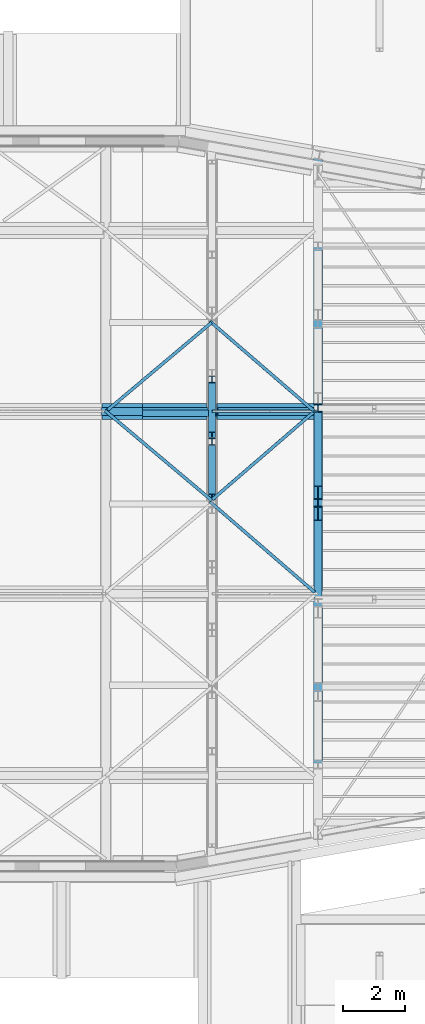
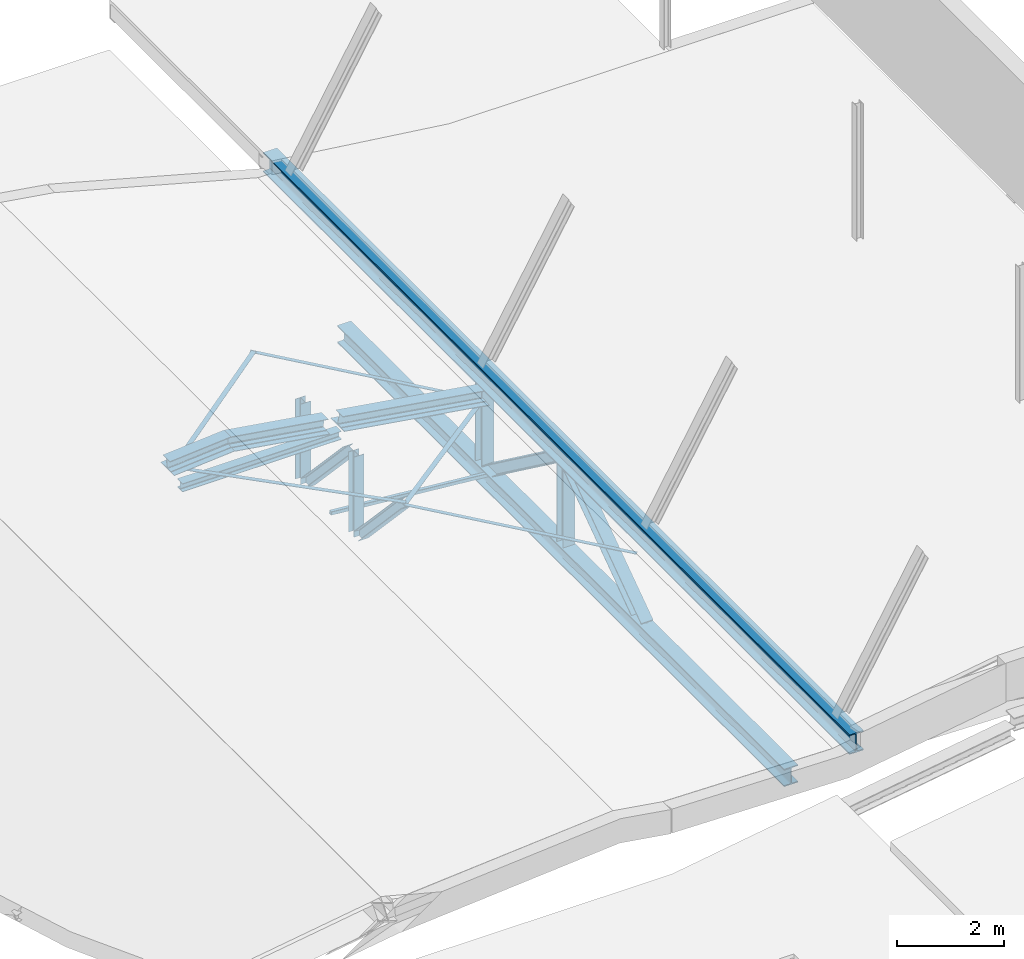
# One storey, part 28 of 50: 20 beams.
"""IFC2X3 building model written with IfcOpenShell, lengths in millimetres."""

from ifc_helpers import new_model, entity, si_unit, converted_unit, derived_unit, direction, frame, frame_2d, origin, place, context, subcontext, project, spatial, polyline, circle_curve, parameter, trimmed, segment, composite_curve, rectangle, i_section, outline, extrude, clip, halfspace, bounded_halfspace, source, transform, mapped, material, material_list, type_object, type_shapes, element, save


model = new_model("IFC2X3")

# Units and contexts
model_context = context("Model", 3, precision=0.01, world=origin(), true_north=direction((6.12303176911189e-17, 1.0)))
body_context = subcontext(model_context, "Body", "Model", "MODEL_VIEW")
ifc_project = project(units=[si_unit("LENGTHUNIT", "METRE", prefix="MILLI"), si_unit("AREAUNIT", "SQUARE_METRE", prefix="MILLI"), si_unit("VOLUMEUNIT", "CUBIC_METRE"), converted_unit("PLANEANGLEUNIT", "DEGREE", entity("IfcRatioMeasure", 0.0174532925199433), si_unit("PLANEANGLEUNIT", "RADIAN"), dimensions=[0, 0, 0, 0, 0, 0, 0]), si_unit("MASSUNIT", "GRAM", prefix="KILO"), derived_unit("MASSDENSITYUNIT", [(si_unit("MASSUNIT", "GRAM", prefix="KILO"), 1), (si_unit("LENGTHUNIT", "METRE"), -3)]), derived_unit("MOMENTOFINERTIAUNIT", [(si_unit("LENGTHUNIT", "METRE"), 4)]), si_unit("TIMEUNIT", "SECOND"), si_unit("FREQUENCYUNIT", "HERTZ"), si_unit("THERMODYNAMICTEMPERATUREUNIT", "DEGREE_CELSIUS"), derived_unit("THERMALTRANSMITTANCEUNIT", [(si_unit("MASSUNIT", "GRAM", prefix="KILO"), 1), (si_unit("THERMODYNAMICTEMPERATUREUNIT", "KELVIN"), -1), (si_unit("TIMEUNIT", "SECOND"), -3)]), derived_unit("VOLUMETRICFLOWRATEUNIT", [(si_unit("LENGTHUNIT", "METRE"), 3), (si_unit("TIMEUNIT", "SECOND"), -1)]), si_unit("ELECTRICCURRENTUNIT", "AMPERE"), si_unit("ELECTRICVOLTAGEUNIT", "VOLT"), si_unit("POWERUNIT", "WATT"), si_unit("FORCEUNIT", "NEWTON", prefix="KILO"), si_unit("ILLUMINANCEUNIT", "LUX"), si_unit("LUMINOUSFLUXUNIT", "LUMEN"), si_unit("LUMINOUSINTENSITYUNIT", "CANDELA"), derived_unit("USERDEFINED", [(si_unit("MASSUNIT", "GRAM", prefix="KILO"), -1), (si_unit("LENGTHUNIT", "METRE"), -2), (si_unit("TIMEUNIT", "SECOND"), 3), (si_unit("LUMINOUSFLUXUNIT", "LUMEN"), 1)]), derived_unit("LINEARVELOCITYUNIT", [(si_unit("LENGTHUNIT", "METRE"), 1), (si_unit("TIMEUNIT", "SECOND"), -1)]), si_unit("PRESSUREUNIT", "PASCAL"), derived_unit("USERDEFINED", [(si_unit("LENGTHUNIT", "METRE"), -2), (si_unit("MASSUNIT", "GRAM", prefix="KILO"), 1), (si_unit("TIMEUNIT", "SECOND"), -2)]), derived_unit("LINEARFORCEUNIT", [(si_unit("MASSUNIT", "GRAM", prefix="KILO"), 1), (si_unit("LENGTHUNIT", "METRE"), 1), (si_unit("TIMEUNIT", "SECOND"), -2), (si_unit("LENGTHUNIT", "METRE"), -1)]), derived_unit("PLANARFORCEUNIT", [(si_unit("MASSUNIT", "GRAM", prefix="KILO"), 1), (si_unit("LENGTHUNIT", "METRE"), 1), (si_unit("TIMEUNIT", "SECOND"), -2), (si_unit("LENGTHUNIT", "METRE"), -2)])], contexts=[model_context])

# Site, building, storey
site_placement = place(None, origin())
site = spatial("IfcSite", under=ifc_project, at=site_placement, Name="Theater aan de Parade", CompositionType="ELEMENT")
building_placement = place(site_placement, origin())
building = spatial("IfcBuilding", under=site, at=building_placement, Name="Theater aan de Parade", CompositionType="ELEMENT")
storey_placement = place(building_placement, frame((0.0, 0.0, 15820.0)))
storey = spatial("IfcBuildingStorey", under=building, at=storey_placement, Name="04 vierde verdieping", CompositionType="ELEMENT", Elevation=15820.0)

# Beams
ifc_material_1 = material(Name="00_PBT_MAT_staal_S355")
beam_type_1 = type_object("IfcBeamType", Name="28_PBT_SF_staal_H-profiel:S355_HE220A", PredefinedType="NOTDEFINED")
beam_1_placement = place(storey_placement, frame((52739.1873742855, 36420.0, -650.0), z_axis=(1.0, 0.0, 0.0), x_axis=(0.0, 0.0, 1.0)))
element("IfcBeam", 1, at=beam_1_placement, inside=storey, type_object=beam_type_1, material=ifc_material_1, Name="28_PBT_SF_staal_H-profiel:S355_HE220A", ObjectType="28_PBT_SF_staal_H-profiel:S355_HE220A", context=body_context, shape_type="SweptSolid", body=[
    extrude(i_section(OverallWidth=220.000000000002, OverallDepth=210.000000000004, WebThickness=6.99999999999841, FlangeThickness=10.9999999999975, FilletRadius=17.9999999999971, at=frame_2d((8.66862137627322e-12, 4.33431068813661e-12), x_axis=(1.0, 0.0))), frame((122.700000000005, 0.0, 0.0), z_axis=(1.0, 0.0, 0.0), x_axis=(0.0, 0.0, -1.0)), (0.0, 0.0, 1.0), 1834.6),
])
beam_2_placement = place(storey_placement, frame((52739.1873742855, 34420.0, -650.0), z_axis=(1.0, 0.0, 0.0), x_axis=(0.0, 0.0, 1.0)))
element("IfcBeam", 2, at=beam_2_placement, inside=storey, type_object=beam_type_1, material=ifc_material_1, Name="28_PBT_SF_staal_H-profiel:S355_HE220A", ObjectType="28_PBT_SF_staal_H-profiel:S355_HE220A", context=body_context, shape_type="SweptSolid", body=[
    extrude(i_section(OverallWidth=220.000000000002, OverallDepth=210.000000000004, WebThickness=6.99999999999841, FlangeThickness=10.9999999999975, FilletRadius=17.9999999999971, at=frame_2d((8.66862137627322e-12, 0.0), x_axis=(1.0, 0.0))), frame((122.700000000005, 0.0, 0.0), z_axis=(1.0, 0.0, 0.0), x_axis=(0.0, 0.0, -1.0)), (0.0, 0.0, 1.0), 1834.6),
])
beam_3_placement = place(storey_placement, frame((52739.1873742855, 32420.0, 1480.0), z_axis=(1.0, 0.0, 0.0), x_axis=(0.0, 0.684510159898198, -0.729003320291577)))
element("IfcBeam", 3, at=beam_3_placement, inside=storey, type_object=beam_type_1, material=ifc_material_1, Name="28_PBT_SF_staal_H-profiel:S355_HE220A", ObjectType="28_PBT_SF_staal_H-profiel:S355_HE220A", context=body_context, shape_type="Clipping", body=[
    clip(clip(clip(clip(extrude(i_section(OverallWidth=220.000000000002, OverallDepth=209.999999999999, WebThickness=6.99999999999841, FlangeThickness=11.0000000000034, FilletRadius=17.9999999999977, at=frame_2d((8.66862137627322e-12, -2.31636931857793e-12), x_axis=(1.0, 0.0))), frame((216.784367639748, 0.0, 0.0), z_axis=(1.0, 0.0, 0.0), x_axis=(0.0, 0.0, -1.0)), (0.0, 0.0, 1.0), 2524.67882275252), halfspace(frame((-4278.80530331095, -7478.72504004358, 130.0), z_axis=(0.729003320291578, -0.684510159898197, 0.0), x_axis=(0.684510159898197, 0.729003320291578, 0.0)), False)), halfspace(frame((1563.47220121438, -1296.58203212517, -130.0), z_axis=(-0.684510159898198, -0.729003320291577, 0.0), x_axis=(-0.729003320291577, 0.684510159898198, 0.0)), False)), halfspace(frame((2761.36498103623, -20.8262216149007, 130.0), z_axis=(0.684510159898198, 0.729003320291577, 0.0), x_axis=(-0.729003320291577, 0.684510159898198, 0.0)), False)), halfspace(frame((-7650.66748484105, -8410.92263663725, -170.0), z_axis=(-0.729003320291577, 0.684510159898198, 0.0), x_axis=(0.684510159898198, 0.729003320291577, 0.0)), False)),
])
beam_4_placement = place(storey_placement, frame((52739.1873742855, 34420.0, 1480.0), z_axis=(1.0, 0.0, 0.0), x_axis=(0.0, 0.684510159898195, -0.72900332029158)))
element("IfcBeam", 4, at=beam_4_placement, inside=storey, type_object=beam_type_1, material=ifc_material_1, Name="28_PBT_SF_staal_H-profiel:S355_HE220A", ObjectType="28_PBT_SF_staal_H-profiel:S355_HE220A", context=body_context, shape_type="Clipping", body=[
    clip(clip(clip(clip(extrude(i_section(OverallWidth=220.000000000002, OverallDepth=210.000000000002, WebThickness=6.9999999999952, FlangeThickness=10.9999999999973, FilletRadius=17.9999999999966, at=frame_2d((8.66862137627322e-12, -1.07647224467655e-11), x_axis=(1.0, 0.0))), frame((216.784367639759, 0.0, 0.0), z_axis=(1.0, 0.0, 0.0), x_axis=(0.0, 0.0, -1.0)), (0.0, 0.0, 1.0), 2524.67882275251), halfspace(frame((-5647.82562310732, -8936.73168062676, 130.0), z_axis=(0.72900332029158, -0.684510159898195, 0.0), x_axis=(0.684510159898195, 0.72900332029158, 0.0)), False)), halfspace(frame((2761.36498103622, -20.8262216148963, 130.0), z_axis=(0.684510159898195, 0.72900332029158, 0.0), x_axis=(-0.72900332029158, 0.684510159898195, 0.0)), False)), bounded_halfspace(frame((1563.47220121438, -1296.58203212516, -130.0), z_axis=(-0.684510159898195, -0.72900332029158, 0.0), x_axis=(-0.72900332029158, 0.684510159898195, 0.0)), False, frame((216.784367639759, 0.0, 0.0), z_axis=(1.0, 0.0, 0.0), x_axis=(0.0, 0.0, -1.0)), polyline([(3.50000000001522, -76.0), (21.5000000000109, -94.0), (110.0, -94.0), (110.0, -105.0), (-110.0, -105.0), (-110.0, -94.0), (-21.499999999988, -94.0), (-3.49999999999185, -76.0), (-3.49999999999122, -32.0864137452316), (3.50000000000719, -32.0864137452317), (3.50000000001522, -76.0)]))), bounded_halfspace(frame((-9019.68780463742, -9868.92927722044, -170.0), z_axis=(-0.72900332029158, 0.684510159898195, 0.0), x_axis=(0.684510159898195, 0.72900332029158, 0.0)), False, frame((216.784367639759, 0.0, 0.0), z_axis=(1.0, 0.0, 0.0), x_axis=(0.0, 0.0, -1.0)), polyline([(21.5000000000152, 94.0), (3.50000000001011, 76.0), (3.50000000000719, -32.0864137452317), (-3.49999999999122, -32.0864137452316), (-3.4999999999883, 76.0), (-21.4999999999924, 94.0), (-110.0, 94.0), (-110.0, 105.0), (110.0, 105.0), (110.0, 94.0), (21.5000000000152, 94.0)]))),
])
beam_type_2 = type_object("IfcBeamType", Name="28_PBT_SF_staal_H-profiel:S355_HE200A", PredefinedType="NOTDEFINED")
beam_5_placement = place(storey_placement, frame((52889.1873742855, 35330.0, 0.0), z_axis=(0.0, 0.0, 1.0), x_axis=(-1.0, 0.0, 0.0)))
element("IfcBeam", 5, at=beam_5_placement, inside=storey, type_object=beam_type_2, material=ifc_material_1, Name="28_PBT_SF_staal_H-profiel:S355_HE200A", ObjectType="28_PBT_SF_staal_H-profiel:S355_HE200A", context=body_context, shape_type="SweptSolid", body=[
    extrude(i_section(OverallWidth=199.999999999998, OverallDepth=190.0, WebThickness=6.50000000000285, FlangeThickness=9.99999999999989, FilletRadius=18.0000000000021, at=frame_2d((2.16715534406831e-12, 2.16715534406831e-12), x_axis=(0.0, 1.0))), frame((0.0, 0.0, 1165.0), z_axis=(1.0, 0.0, 0.0), x_axis=(0.0, 0.0, -1.0)), (0.0, 0.0, 1.0), 3444.1873742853),
])
ifc_material_2 = material(Name="00_PBT_MAT_Lucht")
ifc_material_list_1 = material_list([ifc_material_1, ifc_material_2])
beam_type_3 = type_object("IfcBeamType", Name="28_PBT_SF_staal_H-profiel_met_onderplaat (void):S355_HE260A + onderplaat d=12", PredefinedType="BEAM", material=ifc_material_list_1)
shared_shape_1 = source(origin(), body_context, "Body", "Clipping", [
    clip(extrude(i_section(OverallWidth=260.000000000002, OverallDepth=250.000000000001, WebThickness=7.50000000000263, FlangeThickness=12.4999999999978, FilletRadius=23.9999999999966, at=frame_2d((6.49436060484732e-12, 2.1458390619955e-12), x_axis=(1.0, 0.0))), frame((50495.0112438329, 35389.5120085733, 17640.3595866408), z_axis=(0.987688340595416, 0.0, -0.156434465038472), x_axis=(0.0, 1.0, 0.0)), (0.0, 0.0, 1.0), 2131.09008589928), halfspace(frame((50514.5655519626, 32410.0, 23110.0), z_axis=(-1.0, 0.0, 0.0), x_axis=(0.0, 0.0, 1.0)), False)),
    clip(extrude(rectangle(XDim=11.9999999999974, YDim=510.000000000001, at=frame_2d((-6.49436060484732e-12, 0.0), x_axis=(0.0, 1.0))), frame((50513.6269451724, 35389.5120085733, 17504.7782177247), z_axis=(0.987688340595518, 0.0, -0.156434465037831), x_axis=(0.0, 1.0, 0.0)), (0.0, 0.0, 1.0), 2091.49397581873), halfspace(frame((50514.5655519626, 32410.0, 23110.0), z_axis=(-1.0, 0.0, 0.0), x_axis=(0.0, 0.0, 1.0)), False)),
])
type_shapes(beam_type_3, [shared_shape_1])
beam_6_placement = place(storey_placement, frame((0.0, 0.0, -15820.0)))
element("IfcBeam", 6, at=beam_6_placement, inside=storey, type_object=beam_type_3, material=ifc_material_1, Name="28_PBT_SF_staal_H-profiel_met_onderplaat (void):S355_HE260A + onderplaat d=12", ObjectType="28_PBT_SF_staal_H-profiel_met_onderplaat (void):S355_HE260A + onderplaat d=12", context=body_context, shape_type="MappedRepresentation", body=[
    mapped(shared_shape_1, transform((0.0, 0.0, 0.0), scale=1.0)),
])
ifc_material_list_2 = material_list([ifc_material_1, ifc_material_2])
beam_type_4 = type_object("IfcBeamType", Name="28_PBT_SF_staal_H-profiel_met_onderplaat (void):S355_HE260A + onderplaat d=12", PredefinedType="BEAM", material=ifc_material_list_2)
shared_shape_2 = source(origin(), body_context, "Body", "SweptSolid", [
    extrude(rectangle(XDim=12.0, YDim=510.0, at=frame_2d((5.07593966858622e-13, -1.4210854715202e-14), x_axis=(1.0, 0.0))), frame((-1590.0, 0.0, -131.0), z_axis=(1.0, 0.0, 0.0), x_axis=(0.0, 0.0, -1.0)), (0.0, 0.0, 1.0), 3180.0),
    extrude(i_section(OverallWidth=260.0, OverallDepth=250.0, WebThickness=7.49999999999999, FlangeThickness=12.4999999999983, FilletRadius=24.0, at=frame_2d((-4.12114786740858e-13, 0.0), x_axis=(0.0, 1.0))), frame((-1590.0, 0.0, 0.0), z_axis=(1.0, 0.0, 0.0), x_axis=(0.0, 0.0, -1.0)), (0.0, 0.0, 1.0), 3180.0),
])
type_shapes(beam_type_4, [shared_shape_2])
beam_7_placement = place(storey_placement, frame((54484.2232717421, 35389.5120085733, 1188.53047227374), z_axis=(0.156434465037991, 0.0, 0.987688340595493), x_axis=(0.987688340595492, 0.0, -0.156434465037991)))
element("IfcBeam", 7, at=beam_7_placement, inside=storey, type_object=beam_type_4, material=ifc_material_1, Name="28_PBT_SF_staal_H-profiel_met_onderplaat (void):S355_HE260A + onderplaat d=12", ObjectType="28_PBT_SF_staal_H-profiel_met_onderplaat (void):S355_HE260A + onderplaat d=12", context=body_context, shape_type="MappedRepresentation", body=[
    mapped(shared_shape_2, transform((0.0, 0.0, 0.0), scale=1.0)),
])
ifc_material_3 = material(Name="00_PBT_MAT_staal")
beam_type_5 = type_object("IfcBeamType", Name="28_PBT_SF_staal_strip:strip 100x10", PredefinedType="NOTDEFINED")
beam_8_placement = place(storey_placement, frame((52733.8997913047, 38285.4878460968, 1718.87075855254), z_axis=(0.0901266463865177, -0.0777838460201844, 0.992888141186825), x_axis=(0.751658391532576, -0.648719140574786, -0.119050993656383)))
element("IfcBeam", 8, at=beam_8_placement, inside=storey, type_object=beam_type_5, material=ifc_material_3, Name="28_PBT_SF_staal_strip:strip 100x10", ObjectType="28_PBT_SF_staal_strip:strip 100x10", context=body_context, shape_type="SweptSolid", body=[
    extrude(rectangle(XDim=10.0000000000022, YDim=99.9999999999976, at=frame_2d((7.8301809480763e-12, -3.91242593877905e-13), x_axis=(0.0, 1.0))), frame((0.0, -41.3946155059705, -402.878996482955), z_axis=(1.0, 0.0, 0.0), x_axis=(0.0, -0.994762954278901, 0.102208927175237)), (0.0, 0.0, 1.0), 4469.92489685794),
])
beam_9_placement = place(storey_placement, frame((49337.4466614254, 35389.5120085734, 1589.81123785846), z_axis=(0.045084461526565, 0.0379427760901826, 0.99826235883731), x_axis=(0.763774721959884, 0.642787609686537, -0.0589259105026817)))
element("IfcBeam", 9, at=beam_9_placement, inside=storey, type_object=beam_type_5, material=ifc_material_3, Name="28_PBT_SF_staal_strip:strip 100x10", ObjectType="28_PBT_SF_staal_strip:strip 100x10", context=body_context, shape_type="SweptSolid", body=[
    extrude(rectangle(XDim=9.99999999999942, YDim=99.9999999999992, at=frame_2d((6.09645667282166e-12, -3.33066907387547e-13), x_axis=(0.0, 1.0))), frame((72.2876796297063, 0.247653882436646, -4.99386298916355), z_axis=(1.0, 0.0, 0.0), x_axis=(0.0, -0.998772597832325, -0.049530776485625)), (0.0, 0.0, 1.0), 4364.23056433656),
])
beam_10_placement = place(storey_placement, frame((52733.8997913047, 32493.5361710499, 1718.87075855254), z_axis=(0.0899792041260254, -0.0778065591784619, 0.99289973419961), x_axis=(0.751047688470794, -0.649443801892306, -0.118954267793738)))
element("IfcBeam", 10, at=beam_10_placement, inside=storey, type_object=beam_type_5, material=ifc_material_3, Name="28_PBT_SF_staal_strip:strip 100x10", ObjectType="28_PBT_SF_staal_strip:strip 100x10", context=body_context, shape_type="SweptSolid", body=[
    extrude(rectangle(XDim=10.0000000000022, YDim=99.9999999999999, at=frame_2d((4.31654711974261e-12, 1.7466028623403e-12), x_axis=(0.0, 1.0))), frame((0.0, -41.4403721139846, -402.874292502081), z_axis=(1.0, 0.0, 0.0), x_axis=(0.0, -0.994751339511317, 0.102321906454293)), (0.0, 0.0, 1.0), 4473.55954864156),
])
beam_11_placement = place(storey_placement, frame((52733.8997913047, 32493.5361710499, 1718.87075855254), z_axis=(0.090126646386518, 0.077783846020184, 0.992888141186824), x_axis=(0.751658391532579, 0.648719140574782, -0.119050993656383)))
element("IfcBeam", 11, at=beam_11_placement, inside=storey, type_object=beam_type_5, material=ifc_material_3, Name="28_PBT_SF_staal_strip:strip 100x10", ObjectType="28_PBT_SF_staal_strip:strip 100x10", context=body_context, shape_type="SweptSolid", body=[
    extrude(rectangle(XDim=10.0000000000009, YDim=100.000000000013, at=frame_2d((0.0, 0.0), x_axis=(0.0, 1.0))), frame((0.0, 41.3946155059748, -402.878996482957), z_axis=(1.0, 0.0, 0.0), x_axis=(0.0, -0.994762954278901, -0.102208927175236)), (0.0, 0.0, 1.0), 4469.92489685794),
])
beam_12_placement = place(storey_placement, frame((49337.4466614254, 35389.5120085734, 1589.81123785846), z_axis=(0.0450844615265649, -0.0379427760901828, 0.99826235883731), x_axis=(0.763774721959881, -0.64278760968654, -0.0589259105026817)))
element("IfcBeam", 12, at=beam_12_placement, inside=storey, type_object=beam_type_5, material=ifc_material_3, Name="28_PBT_SF_staal_strip:strip 100x10", ObjectType="28_PBT_SF_staal_strip:strip 100x10", context=body_context, shape_type="SweptSolid", body=[
    extrude(rectangle(XDim=9.99999999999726, YDim=99.9999999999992, at=frame_2d((-6.08935124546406e-12, -3.33066907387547e-13), x_axis=(0.0, 1.0))), frame((-41.9549815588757, -0.247653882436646, -4.99386298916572), z_axis=(1.0, 0.0, 0.0), x_axis=(0.0, -0.998772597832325, 0.049530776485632)), (0.0, 0.0, 1.0), 4478.47322552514),
])
ifc_material_list_3 = material_list([ifc_material_2, ifc_material_1])
beam_type_6 = type_object("IfcBeamType", Name="28_PBT_SF_staal_H-profiel_met_onderplaat (void):S355_HE260A + onderplaat d=12", PredefinedType="BEAM", material=ifc_material_list_3)
shared_shape_3 = source(origin(), body_context, "Body", "Clipping", [
    clip(extrude(i_section(OverallWidth=260.000000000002, OverallDepth=250.0, WebThickness=7.50000000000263, FlangeThickness=12.499999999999, FilletRadius=23.9999999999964, at=frame_2d((6.49436060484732e-12, 3.24007487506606e-12), x_axis=(1.0, 0.0))), frame((49196.5185045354, 35389.5120085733, 17535.9426822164), z_axis=(0.996820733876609, 0.0, 0.079677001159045), x_axis=(0.0, -1.0, 0.0)), (0.0, 0.0, 1.0), 1332.24222514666), halfspace(frame((50514.5655519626, 32410.0, 23110.0), z_axis=(1.0, 0.0, 0.0), x_axis=(0.0, 0.0, 1.0)), False)),
    clip(extrude(rectangle(XDim=11.9999999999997, YDim=510.000000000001, at=frame_2d((-2.1600499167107e-12, -1.07913677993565e-12), x_axis=(0.0, 1.0))), frame((49206.9561916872, 35389.5120085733, 17405.3591660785), z_axis=(0.99682073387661, 0.0, 0.0796770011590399), x_axis=(0.0, -1.0, 0.0)), (0.0, 0.0, 1.0), 1312.25944427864), halfspace(frame((50514.5655519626, 32410.0, 23110.0), z_axis=(1.0, 0.0, 0.0), x_axis=(0.0, 0.0, 1.0)), False)),
])
type_shapes(beam_type_6, [shared_shape_3])
beam_13_placement = place(storey_placement, frame((0.0, 0.0, -15820.0)))
element("IfcBeam", 13, at=beam_13_placement, inside=storey, type_object=beam_type_6, material=ifc_material_1, Name="28_PBT_SF_staal_H-profiel_met_onderplaat (void):S355_HE260A + onderplaat d=12", ObjectType="28_PBT_SF_staal_H-profiel_met_onderplaat (void):S355_HE260A + onderplaat d=12", context=body_context, shape_type="MappedRepresentation", body=[
    mapped(shared_shape_3, transform((0.0, 0.0, 0.0), scale=1.0)),
])
beam_type_7 = type_object("IfcBeamType", Name="28_PBT_SF_staal_H-profiel:S355_HE400B", PredefinedType="NOTDEFINED")
beam_14_placement = place(storey_placement, frame((56143.3747485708, 24050.0, -960.0), z_axis=(0.0, 0.0, 1.0), x_axis=(0.0, 1.0, 0.0)))
element("IfcBeam", 14, at=beam_14_placement, inside=storey, type_object=beam_type_7, material=ifc_material_1, Name="28_PBT_SF_staal_H-profiel:S355_HE400B", ObjectType="28_PBT_SF_staal_H-profiel:S355_HE400B", context=body_context, shape_type="SweptSolid", body=[
    extrude(i_section(OverallWidth=300.000000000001, OverallDepth=400.0, WebThickness=13.4999999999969, FlangeThickness=23.9999999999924, FilletRadius=27.0000000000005, at=frame_2d((0.0, 8.65441052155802e-12), x_axis=(0.0, 1.0))), frame((-55.0570640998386, 0.0, 0.0), z_axis=(1.0, 0.0, 0.0), x_axis=(0.0, 0.0, -1.0)), (0.0, 0.0, 1.0), 16773.2449951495),
])
beam_type_8 = type_object("IfcBeamType", Name="28_PBT_SF_staal_H-profiel:S355_HE450B", PredefinedType="NOTDEFINED")
beam_15_placement = place(storey_placement, frame((56143.3747485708, 21350.0, 1290.0), z_axis=(0.0, 0.0, 1.0), x_axis=(0.0, 1.0, 0.0)))
element("IfcBeam", 15, at=beam_15_placement, inside=storey, type_object=beam_type_8, material=ifc_material_1, Name="28_PBT_SF_staal_H-profiel:S355_HE450B", ObjectType="28_PBT_SF_staal_H-profiel:S355_HE450B", context=body_context, shape_type="SweptSolid", body=[
    extrude(i_section(OverallWidth=300.000000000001, OverallDepth=449.999999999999, WebThickness=13.9999999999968, FlangeThickness=25.9999999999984, FilletRadius=27.0000000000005, at=frame_2d((-1.08002495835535e-12, 0.0), x_axis=(0.0, 1.0))), frame((191.229553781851, 0.0, 0.0), z_axis=(1.0, 0.0, 0.0), x_axis=(0.0, 0.0, -1.0)), (0.0, 0.0, 1.0), 22008.7704462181),
])
beam_type_9 = type_object("IfcBeamType", Name="28_PBT_SF_staal_H-profiel:S355_HE260A", PredefinedType="NOTDEFINED")
beam_16_placement = place(storey_placement, frame((56143.3747485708, 32450.0, -960.0), z_axis=(1.0, 0.0, 0.0), x_axis=(0.0, 0.0, 1.0)))
element("IfcBeam", 16, at=beam_16_placement, inside=storey, type_object=beam_type_9, material=ifc_material_1, Name="28_PBT_SF_staal_H-profiel:S355_HE260A", ObjectType="28_PBT_SF_staal_H-profiel:S355_HE260A", context=body_context, shape_type="SweptSolid", body=[
    extrude(i_section(OverallWidth=260.000000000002, OverallDepth=249.999999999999, WebThickness=7.49999999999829, FlangeThickness=12.4999999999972, FilletRadius=24.0000000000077, at=frame_2d((4.32009983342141e-12, 2.16715534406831e-12), x_axis=(1.0, 0.0))), frame((212.699999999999, 0.0, 0.0), z_axis=(1.0, 0.0, 0.0), x_axis=(0.0, 0.0, -1.0)), (0.0, 0.0, 1.0), 1799.6),
])
beam_17_placement = place(storey_placement, frame((56143.3747485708, 35500.0, -960.0), z_axis=(1.0, 0.0, 0.0), x_axis=(0.0, 0.0, 1.0)))
element("IfcBeam", 17, at=beam_17_placement, inside=storey, type_object=beam_type_9, material=ifc_material_1, Name="28_PBT_SF_staal_H-profiel:S355_HE260A", ObjectType="28_PBT_SF_staal_H-profiel:S355_HE260A", context=body_context, shape_type="SweptSolid", body=[
    extrude(i_section(OverallWidth=260.000000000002, OverallDepth=249.999999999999, WebThickness=7.49999999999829, FlangeThickness=12.4999999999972, FilletRadius=24.0000000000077, at=frame_2d((4.32009983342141e-12, 2.16715534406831e-12), x_axis=(1.0, 0.0))), frame((212.699999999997, 0.0, 0.0), z_axis=(1.0, 0.0, 0.0), x_axis=(0.0, 0.0, -1.0)), (0.0, 0.0, 1.0), 1799.6),
])
beam_18_placement = place(storey_placement, frame((56143.3747485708, 32450.0, 1290.0), z_axis=(0.0, 0.593648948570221, 0.804724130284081), x_axis=(0.0, 0.804724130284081, -0.593648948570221)))
element("IfcBeam", 18, at=beam_18_placement, inside=storey, type_object=beam_type_9, material=ifc_material_1, Name="28_PBT_SF_staal_H-profiel:S355_HE260A", ObjectType="28_PBT_SF_staal_H-profiel:S355_HE260A", context=body_context, shape_type="Clipping", body=[
    clip(clip(clip(clip(extrude(i_section(OverallWidth=260.000000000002, OverallDepth=249.999999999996, WebThickness=7.49999999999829, FlangeThickness=12.4999999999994, FilletRadius=23.9999999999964, at=frame_2d((-8.66862137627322e-13, 3.03259639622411e-11), x_axis=(0.0, 1.0))), frame((262.12899129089, 0.0, 0.0), z_axis=(1.0, 0.0, 0.0), x_axis=(0.0, 0.0, -1.0)), (0.0, 0.0, 1.0), 3280.70197278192), halfspace(frame((-5614.97555941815, -170.0, -6664.79869965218), z_axis=(0.593648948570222, 0.0, -0.804724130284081), x_axis=(0.804724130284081, 0.0, 0.593648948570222)), False)), halfspace(frame((1337.99898078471, 150.0, -1569.47985569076), z_axis=(-0.804724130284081, 0.0, -0.593648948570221), x_axis=(-0.593648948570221, 0.0, 0.804724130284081)), False)), halfspace(frame((3559.03758036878, -150.0, 68.9912423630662), z_axis=(0.804724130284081, 0.0, 0.593648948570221), x_axis=(-0.593648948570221, 0.0, 0.804724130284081)), False)), halfspace(frame((-8649.20130000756, 170.0, -6685.01049648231), z_axis=(-0.593648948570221, 0.0, 0.804724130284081), x_axis=(0.804724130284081, 0.0, 0.593648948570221)), False)),
])
beam_19_placement = place(storey_placement, frame((56143.3747485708, 29250.0, -960.0), z_axis=(0.0, -0.575176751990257, 0.818029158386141), x_axis=(0.0, 0.818029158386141, 0.575176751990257)))
element("IfcBeam", 19, at=beam_19_placement, inside=storey, type_object=beam_type_9, material=ifc_material_1, Name="28_PBT_SF_staal_H-profiel:S355_HE260A", ObjectType="28_PBT_SF_staal_H-profiel:S355_HE260A", context=body_context, shape_type="Clipping", body=[
    clip(clip(clip(extrude(outline(composite_curve([segment(polyline([(112.5, -130.0), (125.0, -130.0)]), True, "CONTINUOUS"), segment(polyline([(125.0, -130.0), (125.0, 130.0)]), True, "CONTINUOUS"), segment(polyline([(125.0, 130.0), (112.500000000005, 130.0)]), True, "CONTINUOUS"), segment(polyline([(112.5, 130.0), (112.499999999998, 27.7500000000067)]), True, "CONTINUOUS"), segment(trimmed(circle_curve(frame_2d((88.499999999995, 27.7500000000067), x_axis=(1.0, 0.0)), 24.0000000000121), [parameter(270.000000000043)], [parameter(0.0)], True, "PARAMETER"), False, "CONTINUOUS"), segment(polyline([(88.5000000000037, 3.75000000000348), (-88.4999999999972, 3.75000000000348)]), True, "CONTINUOUS"), segment(trimmed(circle_curve(frame_2d((-88.4999999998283, 27.7500000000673), x_axis=(0.0, -1.0)), 24.0000000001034), [parameter(270.000000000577)], [parameter(0.0)], True, "PARAMETER"), False, "CONTINUOUS"), segment(polyline([(-112.499999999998, 27.749999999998), (-112.499999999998, 130.0)]), True, "CONTINUOUS"), segment(polyline([(-112.499999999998, 130.0), (-125.0, 130.0)]), True, "CONTINUOUS"), segment(polyline([(-125.0, 130.0), (-125.0, -130.0)]), True, "CONTINUOUS"), segment(polyline([(-125.0, -130.0), (-112.5, -130.0)]), True, "CONTINUOUS"), segment(polyline([(-112.499999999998, -130.0), (-112.499999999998, -27.749999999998)]), True, "CONTINUOUS"), segment(trimmed(circle_curve(frame_2d((-88.4999999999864, -27.7500000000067), x_axis=(-1.0, 0.0)), 24.0000000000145), [parameter(270.000000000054)], [parameter(0.0)], True, "PARAMETER"), False, "CONTINUOUS"), segment(polyline([(-88.5000000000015, -3.74999999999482), (88.5000000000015, -3.74999999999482)]), True, "CONTINUOUS"), segment(trimmed(circle_curve(frame_2d((88.4999999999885, -27.7500000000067), x_axis=(0.0, 1.0)), 24.0000000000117), [parameter(270.000000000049)], [parameter(0.0)], True, "PARAMETER"), False, "CONTINUOUS"), segment(polyline([(112.499999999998, -27.749999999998), (112.500000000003, -130.0)]), True, "CONTINUOUS")], self_intersect=False)), frame((245.153113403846, 0.0, 0.0), z_axis=(1.0, 0.0, 0.0), x_axis=(0.0, 0.0, -1.0)), (0.0, 0.0, 1.0), 3418.50964331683), halfspace(frame((-4188.61160514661, -170.0, 3214.05660353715), z_axis=(-0.575176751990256, 0.0, -0.818029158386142), x_axis=(0.818029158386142, 0.0, -0.575176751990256)), False)), halfspace(frame((229.450788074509, 150.0, 74.2335897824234), z_axis=(-0.818029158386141, 0.0, 0.575176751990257), x_axis=(0.575176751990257, 0.0, 0.818029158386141)), False)), halfspace(frame((-5169.13019573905, 170.0, 6085.55754469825), z_axis=(0.575176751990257, 0.0, 0.818029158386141), x_axis=(0.818029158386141, 0.0, -0.575176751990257)), False)),
])
beam_type_10 = type_object("IfcBeamType", Name="28_PBT_SF_staal_koker:S355_K80x80x5", PredefinedType="NOTDEFINED")
beam_20_placement = place(storey_placement, frame((52739.1873742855, 35389.5120085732, -650.0), z_axis=(0.090689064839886, 0.0, 0.99587925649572), x_axis=(0.99587925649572, 0.0, -0.090689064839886)))
element("IfcBeam", 20, at=beam_20_placement, inside=storey, type_object=beam_type_10, material=ifc_material_1, Name="28_PBT_SF_staal_koker:S355_K80x80x5", ObjectType="28_PBT_SF_staal_koker:S355_K80x80x5", context=body_context, shape_type="SweptSolid", body=[
    extrude(outline(composite_curve([segment(polyline([(-32.5000000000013, -40.0), (32.4999999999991, -40.0)]), True, "CONTINUOUS"), segment(trimmed(circle_curve(frame_2d((32.5000000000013, -32.5000000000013), x_axis=(0.0, 1.0)), 7.5), [parameter(180.0)], [parameter(270.0)], True, "PARAMETER"), True, "CONTINUOUS"), segment(polyline([(40.0, -32.5000000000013), (40.0, 32.5000000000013)]), True, "CONTINUOUS"), segment(trimmed(circle_curve(frame_2d((32.5000000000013, 32.499999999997), x_axis=(0.0, 1.0)), 7.5), [parameter(270.0)], [parameter(360.0)], True, "PARAMETER"), True, "CONTINUOUS"), segment(polyline([(32.4999999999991, 40.0), (-32.5000000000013, 40.0)]), True, "CONTINUOUS"), segment(trimmed(circle_curve(frame_2d((-32.5000000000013, 32.4999999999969), x_axis=(0.0, 1.0)), 7.5), [parameter(0.0)], [parameter(90.0000000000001)], True, "PARAMETER"), True, "CONTINUOUS"), segment(polyline([(-40.0, 32.5000000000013), (-40.0, -32.5000000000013)]), True, "CONTINUOUS"), segment(trimmed(circle_curve(frame_2d((-32.5000000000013, -32.5000000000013), x_axis=(0.0, 1.0)), 7.5), [parameter(90.0)], [parameter(180.0)], True, "PARAMETER"), True, "CONTINUOUS")], self_intersect=False), holes=[composite_curve([segment(polyline([(35.0, 30.0), (35.0, -30.0)]), True, "CONTINUOUS"), segment(trimmed(circle_curve(frame_2d((30.0, -30.0), x_axis=(0.0, 1.0)), 5.0), [parameter(180.0)], [parameter(270.0)], True, "PARAMETER"), False, "CONTINUOUS"), segment(polyline([(30.0, -35.0), (-30.0, -35.0)]), True, "CONTINUOUS"), segment(trimmed(circle_curve(frame_2d((-30.0, -30.0), x_axis=(0.0, 1.0)), 5.0), [parameter(90.0)], [parameter(180.0)], True, "PARAMETER"), False, "CONTINUOUS"), segment(polyline([(-35.0, -30.0), (-35.0, 30.0)]), True, "CONTINUOUS"), segment(trimmed(circle_curve(frame_2d((-30.0, 30.0), x_axis=(0.0, 1.0)), 5.0), [parameter(4.07110999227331e-13)], [parameter(90.0000000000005)], True, "PARAMETER"), False, "CONTINUOUS"), segment(polyline([(-30.0, 35.0), (30.0, 35.0)]), True, "CONTINUOUS"), segment(trimmed(circle_curve(frame_2d((30.0, 30.0), x_axis=(0.0, 1.0)), 5.0), [parameter(270.0)], [parameter(5.08888749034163e-14)], True, "PARAMETER"), False, "CONTINUOUS")], self_intersect=False)]), frame((0.0, 0.0, 0.0), z_axis=(1.0, 0.0, 0.0), x_axis=(0.0, 0.0, 1.0)), (0.0, 0.0, 1.0), 3418.27320137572),
])

save(model, "model.ifc")
